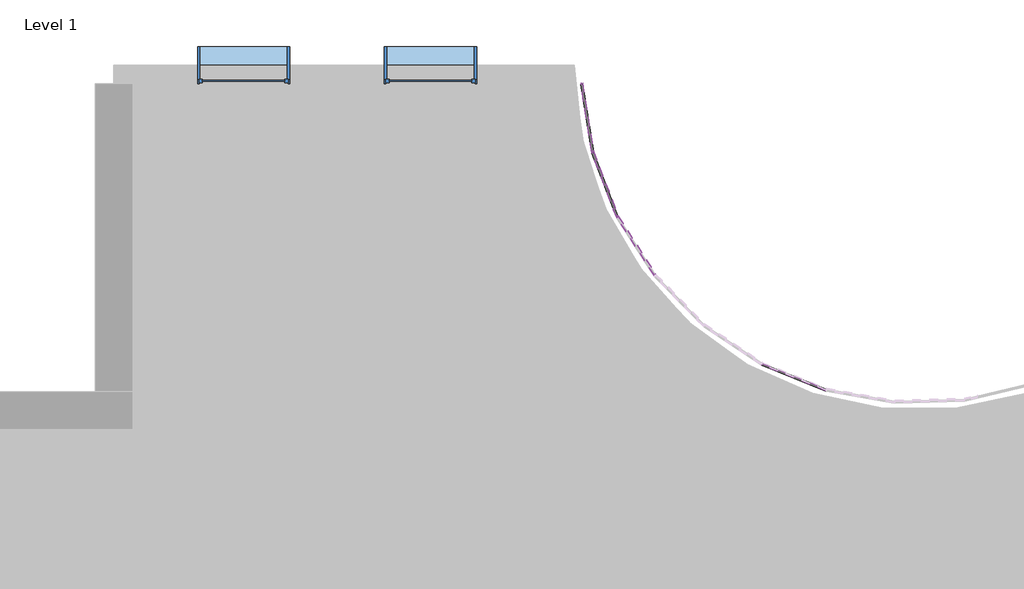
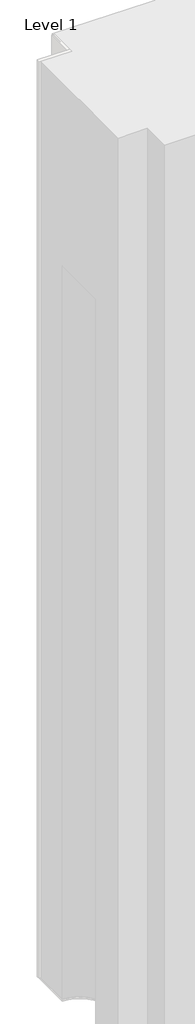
# One storey, part 16 of 20: 121 plates, 2 windows.
"""IFC4 building model written with IfcOpenShell, lengths in millimetres."""

from ifc_helpers import new_model, si_unit, origin, place, context, project, spatial, transform, mapped, element, save
from components import system_panel_glazed_d77d1ebf, window_d0035ecf, window_d434eb62

model = new_model("IFC4")

# Units and contexts
model_context = context("Model", 3, world=origin())
ifc_project = project(units=[si_unit("LENGTHUNIT", "METRE", prefix="MILLI")], contexts=[model_context])

# Site, building, storey
site = spatial("IfcSite", under=ifc_project)
building = spatial("IfcBuilding", under=site)
storey = spatial("IfcBuildingStorey", under=building, Name="Level 1", Elevation=0.0)

# Plates
placement = place(None, origin())
system_panel_glazed_shape = system_panel_glazed_d77d1ebf(model_context)
element("IfcPlate", 1, ObjectType="System Panel : Glazed", at=placement, inside=storey, context=model_context, shape_type="MappedRepresentation", body=[
    mapped(system_panel_glazed_shape, transform((-850.898382, 8349.4333414, 0.0), x_axis=(0.15870983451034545, -0.9873252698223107, 0.0), y_axis=(0.9873252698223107, 0.15870983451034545, 0.0), z_axis=(0.0, 0.0, 1.0))),
])
element("IfcPlate", 2, ObjectType="System Panel : Glazed", at=placement, inside=storey, context=model_context, shape_type="MappedRepresentation", body=[
    mapped(system_panel_glazed_shape, transform((-850.898382, 8349.4333414, 3048.0), x_axis=(0.15870983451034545, -0.9873252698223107, 0.0), y_axis=(0.9873252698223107, 0.15870983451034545, 0.0), z_axis=(0.0, 0.0, 1.0))),
])
element("IfcPlate", 3, ObjectType="System Panel : Glazed", at=placement, inside=storey, context=model_context, shape_type="MappedRepresentation", body=[
    mapped(system_panel_glazed_shape, transform((-850.898382, 8349.4333414, 6096.0), x_axis=(0.15870983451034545, -0.9873252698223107, 0.0), y_axis=(0.9873252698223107, 0.15870983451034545, 0.0), z_axis=(0.0, 0.0, 1.0))),
])
element("IfcPlate", 4, ObjectType="System Panel : Glazed", at=placement, inside=storey, context=model_context, shape_type="MappedRepresentation", body=[
    mapped(system_panel_glazed_shape, transform((-850.898382, 8349.4333414, 9144.0), x_axis=(0.15870983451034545, -0.9873252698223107, 0.0), y_axis=(0.9873252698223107, 0.15870983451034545, 0.0), z_axis=(0.0, 0.0, 1.0))),
])
element("IfcPlate", 5, ObjectType="System Panel : Glazed", at=placement, inside=storey, context=model_context, shape_type="MappedRepresentation", body=[
    mapped(system_panel_glazed_shape, transform((-850.898382, 8349.4333414, 12192.0), x_axis=(0.15870983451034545, -0.9873252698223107, 0.0), y_axis=(0.9873252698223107, 0.15870983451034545, 0.0), z_axis=(0.0, 0.0, 1.0))),
])
element("IfcPlate", 6, ObjectType="System Panel : Glazed", at=placement, inside=storey, context=model_context, shape_type="MappedRepresentation", body=[
    mapped(system_panel_glazed_shape, transform((-850.898382, 8349.4333414, 15240.0), x_axis=(0.15870983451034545, -0.9873252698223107, 0.0), y_axis=(0.9873252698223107, 0.15870983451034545, 0.0), z_axis=(0.0, 0.0, 1.0))),
])
element("IfcPlate", 7, ObjectType="System Panel : Glazed", at=placement, inside=storey, context=model_context, shape_type="MappedRepresentation", body=[
    mapped(system_panel_glazed_shape, transform((-850.898382, 8349.4333414, 18288.0), x_axis=(0.15870983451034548, -0.9873252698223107, 0.0), y_axis=(0.9873252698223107, 0.15870983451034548, 0.0), z_axis=(0.0, 0.0, 1.0))),
])
element("IfcPlate", 8, ObjectType="System Panel : Glazed", at=placement, inside=storey, context=model_context, shape_type="MappedRepresentation", body=[
    mapped(system_panel_glazed_shape, transform((-850.898382, 8349.4333414, 21336.0), x_axis=(0.15870983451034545, -0.9873252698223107, 0.0), y_axis=(0.9873252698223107, 0.15870983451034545, 0.0), z_axis=(0.0, 0.0, 1.0))),
])
element("IfcPlate", 9, ObjectType="System Panel : Glazed", at=placement, inside=storey, context=model_context, shape_type="MappedRepresentation", body=[
    mapped(system_panel_glazed_shape, transform((-850.898382, 8349.4333414, 24384.0), x_axis=(0.15870983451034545, -0.9873252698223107, 0.0), y_axis=(0.9873252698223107, 0.15870983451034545, 0.0), z_axis=(0.0, 0.0, 1.0))),
])
element("IfcPlate", 10, ObjectType="System Panel : Glazed", at=placement, inside=storey, context=model_context, shape_type="MappedRepresentation", body=[
    mapped(system_panel_glazed_shape, transform((-850.898382, 8349.4333414, 27432.0), x_axis=(0.15870983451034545, -0.9873252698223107, 0.0), y_axis=(0.9873252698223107, 0.15870983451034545, 0.0), z_axis=(0.0, 0.0, 1.0))),
])
element("IfcPlate", 11, ObjectType="System Panel : Glazed", at=placement, inside=storey, context=model_context, shape_type="MappedRepresentation", body=[
    mapped(system_panel_glazed_shape, transform((-850.898382, 8349.4333414, 30480.0), x_axis=(0.15870983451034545, -0.9873252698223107, 0.0), y_axis=(0.9873252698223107, 0.15870983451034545, 0.0), z_axis=(0.0, 0.0, 1.0))),
])
element("IfcPlate", 12, ObjectType="System Panel : Glazed", at=placement, inside=storey, context=model_context, shape_type="MappedRepresentation", body=[
    mapped(system_panel_glazed_shape, transform((-850.898382, 8349.4333414, 33528.0), x_axis=(0.15870983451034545, -0.9873252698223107, 0.0), y_axis=(0.9873252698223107, 0.15870983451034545, 0.0), z_axis=(0.0, 0.0, 1.0))),
])
element("IfcPlate", 13, ObjectType="System Panel : Glazed", at=placement, inside=storey, context=model_context, shape_type="MappedRepresentation", body=[
    mapped(system_panel_glazed_shape, transform((-850.898382, 8349.4333414, 36576.0), x_axis=(0.15870983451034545, -0.9873252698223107, 0.0), y_axis=(0.9873252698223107, 0.15870983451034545, 0.0), z_axis=(0.0, 0.0, 1.0))),
])
element("IfcPlate", 14, ObjectType="System Panel : Glazed", at=placement, inside=storey, context=model_context, shape_type="MappedRepresentation", body=[
    mapped(system_panel_glazed_shape, transform((-850.898382, 8349.4333414, 39624.0), x_axis=(0.15870983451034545, -0.9873252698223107, 0.0), y_axis=(0.9873252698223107, 0.15870983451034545, 0.0), z_axis=(0.0, 0.0, 1.0))),
])
element("IfcPlate", 15, ObjectType="System Panel : Glazed", at=placement, inside=storey, context=model_context, shape_type="MappedRepresentation", body=[
    mapped(system_panel_glazed_shape, transform((-850.898382, 8349.4333414, 42672.0), x_axis=(0.15870983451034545, -0.9873252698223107, 0.0), y_axis=(0.9873252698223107, 0.15870983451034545, 0.0), z_axis=(0.0, 0.0, 1.0))),
])
element("IfcPlate", 16, ObjectType="System Panel : Glazed", at=placement, inside=storey, context=model_context, shape_type="MappedRepresentation", body=[
    mapped(system_panel_glazed_shape, transform((-850.898382, 8349.4333414, 45720.0), x_axis=(0.15870983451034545, -0.9873252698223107, 0.0), y_axis=(0.9873252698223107, 0.15870983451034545, 0.0), z_axis=(0.0, 0.0, 1.0))),
])
element("IfcPlate", 17, ObjectType="System Panel : Glazed", at=placement, inside=storey, context=model_context, shape_type="MappedRepresentation", body=[
    mapped(system_panel_glazed_shape, transform((-850.898382, 8349.4333414, 48768.0), x_axis=(0.15870983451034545, -0.9873252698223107, 0.0), y_axis=(0.9873252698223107, 0.15870983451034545, 0.0), z_axis=(0.0, 0.0, 1.0))),
])
element("IfcPlate", 18, ObjectType="System Panel : Glazed", at=placement, inside=storey, context=model_context, shape_type="MappedRepresentation", body=[
    mapped(system_panel_glazed_shape, transform((-850.898382, 8349.4333414, 51816.0), x_axis=(0.15870983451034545, -0.9873252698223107, 0.0), y_axis=(0.9873252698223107, 0.15870983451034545, 0.0), z_axis=(0.0, 0.0, 1.0))),
])
element("IfcPlate", 19, ObjectType="System Panel : Glazed", at=placement, inside=storey, context=model_context, shape_type="MappedRepresentation", body=[
    mapped(system_panel_glazed_shape, transform((-850.898382, 8349.4333414, 54864.0), x_axis=(0.15870983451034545, -0.9873252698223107, 0.0), y_axis=(0.9873252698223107, 0.15870983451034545, 0.0), z_axis=(0.0, 0.0, 1.0))),
])
element("IfcPlate", 20, ObjectType="System Panel : Glazed", at=placement, inside=storey, context=model_context, shape_type="MappedRepresentation", body=[
    mapped(system_panel_glazed_shape, transform((-850.898382, 8349.4333414, 57912.0), x_axis=(0.15870983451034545, -0.9873252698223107, 0.0), y_axis=(0.9873252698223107, 0.15870983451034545, 0.0), z_axis=(0.0, 0.0, 1.0))),
])
element("IfcPlate", 21, ObjectType="System Panel : Glazed", at=placement, inside=storey, context=model_context, shape_type="MappedRepresentation", body=[
    mapped(system_panel_glazed_shape, transform((-850.898382, 8349.4333414, 60960.0), x_axis=(0.15870983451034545, -0.9873252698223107, 0.0), y_axis=(0.9873252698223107, 0.15870983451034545, 0.0), z_axis=(0.0, 0.0, 1.0))),
])
element("IfcPlate", 22, ObjectType="System Panel : Glazed", at=placement, inside=storey, context=model_context, shape_type="MappedRepresentation", body=[
    mapped(system_panel_glazed_shape, transform((-850.898382, 8349.4333414, 64008.0), x_axis=(0.15870983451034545, -0.9873252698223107, 0.0), y_axis=(0.9873252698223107, 0.15870983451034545, 0.0), z_axis=(0.0, 0.0, 1.0))),
])
element("IfcPlate", 23, ObjectType="System Panel : Glazed", at=placement, inside=storey, context=model_context, shape_type="MappedRepresentation", body=[
    mapped(system_panel_glazed_shape, transform((-850.898382, 8349.4333414, 67056.0), x_axis=(0.15870983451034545, -0.9873252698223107, 0.0), y_axis=(0.9873252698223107, 0.15870983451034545, 0.0), z_axis=(0.0, 0.0, 1.0))),
])
element("IfcPlate", 24, ObjectType="System Panel : Glazed", at=placement, inside=storey, context=model_context, shape_type="MappedRepresentation", body=[
    mapped(system_panel_glazed_shape, transform((-850.898382, 8349.4333414, 70104.0), x_axis=(0.15870983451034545, -0.9873252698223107, 0.0), y_axis=(0.9873252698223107, 0.15870983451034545, 0.0), z_axis=(0.0, 0.0, 1.0))),
])
element("IfcPlate", 25, ObjectType="System Panel : Glazed", at=placement, inside=storey, context=model_context, shape_type="MappedRepresentation", body=[
    mapped(system_panel_glazed_shape, transform((-850.898382, 8349.4333414, 73152.0), x_axis=(0.15870983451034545, -0.9873252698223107, 0.0), y_axis=(0.9873252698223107, 0.15870983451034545, 0.0), z_axis=(0.0, 0.0, 1.0))),
])
element("IfcPlate", 26, ObjectType="System Panel : Glazed", at=placement, inside=storey, context=model_context, shape_type="MappedRepresentation", body=[
    mapped(system_panel_glazed_shape, transform((-850.898382, 8349.4333414, 76200.0), x_axis=(0.15870983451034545, -0.9873252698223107, 0.0), y_axis=(0.9873252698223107, 0.15870983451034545, 0.0), z_axis=(0.0, 0.0, 1.0))),
])
element("IfcPlate", 27, ObjectType="System Panel : Glazed", at=placement, inside=storey, context=model_context, shape_type="MappedRepresentation", body=[
    mapped(system_panel_glazed_shape, transform((-850.898382, 8349.4333414, 79248.0), x_axis=(0.15870983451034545, -0.9873252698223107, 0.0), y_axis=(0.9873252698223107, 0.15870983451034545, 0.0), z_axis=(0.0, 0.0, 1.0))),
])
element("IfcPlate", 28, ObjectType="System Panel : Glazed", at=placement, inside=storey, context=model_context, shape_type="MappedRepresentation", body=[
    mapped(system_panel_glazed_shape, transform((-850.898382, 8349.4333414, 82296.0), x_axis=(0.15870983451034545, -0.9873252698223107, 0.0), y_axis=(0.9873252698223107, 0.15870983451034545, 0.0), z_axis=(0.0, 0.0, 1.0))),
])
element("IfcPlate", 29, ObjectType="System Panel : Glazed", at=placement, inside=storey, context=model_context, shape_type="MappedRepresentation", body=[
    mapped(system_panel_glazed_shape, transform((-850.898382, 8349.4333414, 85344.0), x_axis=(0.15870983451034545, -0.9873252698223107, 0.0), y_axis=(0.9873252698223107, 0.15870983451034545, 0.0), z_axis=(0.0, 0.0, 1.0))),
])
element("IfcPlate", 30, ObjectType="System Panel : Glazed", at=placement, inside=storey, context=model_context, shape_type="MappedRepresentation", body=[
    mapped(system_panel_glazed_shape, transform((-850.898382, 8349.4333414, 88392.0), x_axis=(0.15870983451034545, -0.9873252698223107, 0.0), y_axis=(0.9873252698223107, 0.15870983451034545, 0.0), z_axis=(0.0, 0.0, 1.0))),
])
element("IfcPlate", 31, ObjectType="System Panel : Glazed", at=placement, inside=storey, context=model_context, shape_type="MappedRepresentation", body=[
    mapped(system_panel_glazed_shape, transform((-850.898382, 8349.4333414, 91440.0), x_axis=(0.15870983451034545, -0.9873252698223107, 0.0), y_axis=(0.9873252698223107, 0.15870983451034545, 0.0), z_axis=(0.0, 0.0, 1.0))),
])
element("IfcPlate", 32, ObjectType="System Panel : Glazed", at=placement, inside=storey, context=model_context, shape_type="MappedRepresentation", body=[
    mapped(system_panel_glazed_shape, transform((-850.898382, 8349.4333414, 94488.0), x_axis=(0.15870983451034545, -0.9873252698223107, 0.0), y_axis=(0.9873252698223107, 0.15870983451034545, 0.0), z_axis=(0.0, 0.0, 1.0))),
])
element("IfcPlate", 33, ObjectType="System Panel : Glazed", at=placement, inside=storey, context=model_context, shape_type="MappedRepresentation", body=[
    mapped(system_panel_glazed_shape, transform((-850.898382, 8349.4333414, 97536.0), x_axis=(0.15870983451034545, -0.9873252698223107, 0.0), y_axis=(0.9873252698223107, 0.15870983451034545, 0.0), z_axis=(0.0, 0.0, 1.0))),
])
element("IfcPlate", 34, ObjectType="System Panel : Glazed", at=placement, inside=storey, context=model_context, shape_type="MappedRepresentation", body=[
    mapped(system_panel_glazed_shape, transform((-850.898382, 8349.4333414, 100584.0), x_axis=(0.15870983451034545, -0.9873252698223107, 0.0), y_axis=(0.9873252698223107, 0.15870983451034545, 0.0), z_axis=(0.0, 0.0, 1.0))),
])
element("IfcPlate", 35, ObjectType="System Panel : Glazed", at=placement, inside=storey, context=model_context, shape_type="MappedRepresentation", body=[
    mapped(system_panel_glazed_shape, transform((1869.2399479, 4945.5684765, 0.0), x_axis=(0.9280115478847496, -0.37255142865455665, 0.0), y_axis=(0.37255142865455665, 0.9280115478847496, 0.0), z_axis=(0.0, 0.0, 1.0))),
])
element("IfcPlate", 36, ObjectType="System Panel : Glazed", at=placement, inside=storey, context=model_context, shape_type="MappedRepresentation", body=[
    mapped(system_panel_glazed_shape, transform((1869.2399479, 4945.5684765, 3048.0), x_axis=(0.9280115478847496, -0.37255142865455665, 0.0), y_axis=(0.37255142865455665, 0.9280115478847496, 0.0), z_axis=(0.0, 0.0, 1.0))),
])
element("IfcPlate", 37, ObjectType="System Panel : Glazed", at=placement, inside=storey, context=model_context, shape_type="MappedRepresentation", body=[
    mapped(system_panel_glazed_shape, transform((1869.2399479, 4945.5684765, 6096.0), x_axis=(0.9280115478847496, -0.37255142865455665, 0.0), y_axis=(0.37255142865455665, 0.9280115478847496, 0.0), z_axis=(0.0, 0.0, 1.0))),
])
element("IfcPlate", 38, ObjectType="System Panel : Glazed", at=placement, inside=storey, context=model_context, shape_type="MappedRepresentation", body=[
    mapped(system_panel_glazed_shape, transform((1869.2399479, 4945.5684765, 9144.0), x_axis=(0.9280115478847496, -0.37255142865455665, 0.0), y_axis=(0.37255142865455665, 0.9280115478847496, 0.0), z_axis=(0.0, 0.0, 1.0))),
])
element("IfcPlate", 39, ObjectType="System Panel : Glazed", at=placement, inside=storey, context=model_context, shape_type="MappedRepresentation", body=[
    mapped(system_panel_glazed_shape, transform((1869.2399479, 4945.5684765, 12192.0), x_axis=(0.9280115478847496, -0.37255142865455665, 0.0), y_axis=(0.37255142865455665, 0.9280115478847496, 0.0), z_axis=(0.0, 0.0, 1.0))),
])
element("IfcPlate", 40, ObjectType="System Panel : Glazed", at=placement, inside=storey, context=model_context, shape_type="MappedRepresentation", body=[
    mapped(system_panel_glazed_shape, transform((1869.2399479, 4945.5684765, 15240.0), x_axis=(0.9280115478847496, -0.37255142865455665, 0.0), y_axis=(0.37255142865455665, 0.9280115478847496, 0.0), z_axis=(0.0, 0.0, 1.0))),
])
element("IfcPlate", 41, ObjectType="System Panel : Glazed", at=placement, inside=storey, context=model_context, shape_type="MappedRepresentation", body=[
    mapped(system_panel_glazed_shape, transform((1869.2399479, 4945.5684765, 18288.0), x_axis=(0.9280115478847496, -0.37255142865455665, 0.0), y_axis=(0.37255142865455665, 0.9280115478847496, 0.0), z_axis=(0.0, 0.0, 1.0))),
])
element("IfcPlate", 42, ObjectType="System Panel : Glazed", at=placement, inside=storey, context=model_context, shape_type="MappedRepresentation", body=[
    mapped(system_panel_glazed_shape, transform((1869.2399479, 4945.5684765, 21336.0), x_axis=(0.9280115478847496, -0.37255142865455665, 0.0), y_axis=(0.37255142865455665, 0.9280115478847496, 0.0), z_axis=(0.0, 0.0, 1.0))),
])
element("IfcPlate", 43, ObjectType="System Panel : Glazed", at=placement, inside=storey, context=model_context, shape_type="MappedRepresentation", body=[
    mapped(system_panel_glazed_shape, transform((1869.2399479, 4945.5684765, 24384.0), x_axis=(0.9280115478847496, -0.37255142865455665, 0.0), y_axis=(0.37255142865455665, 0.9280115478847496, 0.0), z_axis=(0.0, 0.0, 1.0))),
])
element("IfcPlate", 44, ObjectType="System Panel : Glazed", at=placement, inside=storey, context=model_context, shape_type="MappedRepresentation", body=[
    mapped(system_panel_glazed_shape, transform((1869.2399479, 4945.5684765, 27432.0), x_axis=(0.9280115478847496, -0.37255142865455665, 0.0), y_axis=(0.37255142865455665, 0.9280115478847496, 0.0), z_axis=(0.0, 0.0, 1.0))),
])
element("IfcPlate", 45, ObjectType="System Panel : Glazed", at=placement, inside=storey, context=model_context, shape_type="MappedRepresentation", body=[
    mapped(system_panel_glazed_shape, transform((1869.2399479, 4945.5684765, 30480.0), x_axis=(0.9280115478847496, -0.37255142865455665, 0.0), y_axis=(0.37255142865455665, 0.9280115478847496, 0.0), z_axis=(0.0, 0.0, 1.0))),
])
element("IfcPlate", 46, ObjectType="System Panel : Glazed", at=placement, inside=storey, context=model_context, shape_type="MappedRepresentation", body=[
    mapped(system_panel_glazed_shape, transform((1869.2399479, 4945.5684765, 33528.0), x_axis=(0.9280115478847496, -0.37255142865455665, 0.0), y_axis=(0.37255142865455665, 0.9280115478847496, 0.0), z_axis=(0.0, 0.0, 1.0))),
])
element("IfcPlate", 47, ObjectType="System Panel : Glazed", at=placement, inside=storey, context=model_context, shape_type="MappedRepresentation", body=[
    mapped(system_panel_glazed_shape, transform((1869.2399479, 4945.5684765, 36576.0), x_axis=(0.9280115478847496, -0.37255142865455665, 0.0), y_axis=(0.37255142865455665, 0.9280115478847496, 0.0), z_axis=(0.0, 0.0, 1.0))),
])
element("IfcPlate", 48, ObjectType="System Panel : Glazed", at=placement, inside=storey, context=model_context, shape_type="MappedRepresentation", body=[
    mapped(system_panel_glazed_shape, transform((1869.2399479, 4945.5684765, 39624.0), x_axis=(0.9280115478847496, -0.37255142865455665, 0.0), y_axis=(0.37255142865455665, 0.9280115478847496, 0.0), z_axis=(0.0, 0.0, 1.0))),
])
element("IfcPlate", 49, ObjectType="System Panel : Glazed", at=placement, inside=storey, context=model_context, shape_type="MappedRepresentation", body=[
    mapped(system_panel_glazed_shape, transform((1869.2399479, 4945.5684765, 42672.0), x_axis=(0.9280115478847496, -0.37255142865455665, 0.0), y_axis=(0.37255142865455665, 0.9280115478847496, 0.0), z_axis=(0.0, 0.0, 1.0))),
])
element("IfcPlate", 50, ObjectType="System Panel : Glazed", at=placement, inside=storey, context=model_context, shape_type="MappedRepresentation", body=[
    mapped(system_panel_glazed_shape, transform((1869.2399479, 4945.5684765, 45720.0), x_axis=(0.9280115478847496, -0.37255142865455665, 0.0), y_axis=(0.37255142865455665, 0.9280115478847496, 0.0), z_axis=(0.0, 0.0, 1.0))),
])
element("IfcPlate", 51, ObjectType="System Panel : Glazed", at=placement, inside=storey, context=model_context, shape_type="MappedRepresentation", body=[
    mapped(system_panel_glazed_shape, transform((1869.2399479, 4945.5684765, 48768.0), x_axis=(0.9280115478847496, -0.37255142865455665, 0.0), y_axis=(0.37255142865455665, 0.9280115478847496, 0.0), z_axis=(0.0, 0.0, 1.0))),
])
element("IfcPlate", 52, ObjectType="System Panel : Glazed", at=placement, inside=storey, context=model_context, shape_type="MappedRepresentation", body=[
    mapped(system_panel_glazed_shape, transform((1869.2399479, 4945.5684765, 51816.0), x_axis=(0.9280115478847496, -0.37255142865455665, 0.0), y_axis=(0.37255142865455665, 0.9280115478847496, 0.0), z_axis=(0.0, 0.0, 1.0))),
])
element("IfcPlate", 53, ObjectType="System Panel : Glazed", at=placement, inside=storey, context=model_context, shape_type="MappedRepresentation", body=[
    mapped(system_panel_glazed_shape, transform((1869.2399479, 4945.5684765, 54864.0), x_axis=(0.9280115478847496, -0.37255142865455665, 0.0), y_axis=(0.37255142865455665, 0.9280115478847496, 0.0), z_axis=(0.0, 0.0, 1.0))),
])
element("IfcPlate", 54, ObjectType="System Panel : Glazed", at=placement, inside=storey, context=model_context, shape_type="MappedRepresentation", body=[
    mapped(system_panel_glazed_shape, transform((1869.2399479, 4945.5684765, 57912.0), x_axis=(0.9280115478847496, -0.37255142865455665, 0.0), y_axis=(0.37255142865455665, 0.9280115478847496, 0.0), z_axis=(0.0, 0.0, 1.0))),
])
element("IfcPlate", 55, ObjectType="System Panel : Glazed", at=placement, inside=storey, context=model_context, shape_type="MappedRepresentation", body=[
    mapped(system_panel_glazed_shape, transform((1869.2399479, 4945.5684765, 60960.0), x_axis=(0.9280115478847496, -0.37255142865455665, 0.0), y_axis=(0.37255142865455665, 0.9280115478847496, 0.0), z_axis=(0.0, 0.0, 1.0))),
])
element("IfcPlate", 56, ObjectType="System Panel : Glazed", at=placement, inside=storey, context=model_context, shape_type="MappedRepresentation", body=[
    mapped(system_panel_glazed_shape, transform((1869.2399479, 4945.5684765, 64008.0), x_axis=(0.9280115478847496, -0.37255142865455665, 0.0), y_axis=(0.37255142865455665, 0.9280115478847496, 0.0), z_axis=(0.0, 0.0, 1.0))),
])
element("IfcPlate", 57, ObjectType="System Panel : Glazed", at=placement, inside=storey, context=model_context, shape_type="MappedRepresentation", body=[
    mapped(system_panel_glazed_shape, transform((1869.2399479, 4945.5684765, 67056.0), x_axis=(0.9280115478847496, -0.37255142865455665, 0.0), y_axis=(0.37255142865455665, 0.9280115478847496, 0.0), z_axis=(0.0, 0.0, 1.0))),
])
element("IfcPlate", 58, ObjectType="System Panel : Glazed", at=placement, inside=storey, context=model_context, shape_type="MappedRepresentation", body=[
    mapped(system_panel_glazed_shape, transform((-204.4736202, 6659.3588929, 67056.0), x_axis=(0.5406806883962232, -0.841227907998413, 0.0), y_axis=(0.841227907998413, 0.5406806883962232, 0.0), z_axis=(0.0, 0.0, 1.0))),
])
element("IfcPlate", 59, ObjectType="System Panel : Glazed", at=placement, inside=storey, context=model_context, shape_type="MappedRepresentation", body=[
    mapped(system_panel_glazed_shape, transform((-204.4736202, 6659.3588929, 70104.0), x_axis=(0.5406806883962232, -0.841227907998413, 0.0), y_axis=(0.841227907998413, 0.5406806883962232, 0.0), z_axis=(0.0, 0.0, 1.0))),
])
element("IfcPlate", 60, ObjectType="System Panel : Glazed", at=placement, inside=storey, context=model_context, shape_type="MappedRepresentation", body=[
    mapped(system_panel_glazed_shape, transform((-204.4736202, 6659.3588929, 73152.0), x_axis=(0.5406806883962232, -0.841227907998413, 0.0), y_axis=(0.841227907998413, 0.5406806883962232, 0.0), z_axis=(0.0, 0.0, 1.0))),
])
element("IfcPlate", 61, ObjectType="System Panel : Glazed", at=placement, inside=storey, context=model_context, shape_type="MappedRepresentation", body=[
    mapped(system_panel_glazed_shape, transform((-204.4736202, 6659.3588929, 76200.0), x_axis=(0.5406806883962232, -0.841227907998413, 0.0), y_axis=(0.841227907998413, 0.5406806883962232, 0.0), z_axis=(0.0, 0.0, 1.0))),
])
element("IfcPlate", 62, ObjectType="System Panel : Glazed", at=placement, inside=storey, context=model_context, shape_type="MappedRepresentation", body=[
    mapped(system_panel_glazed_shape, transform((-204.4736202, 6659.3588929, 79248.0), x_axis=(0.5406806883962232, -0.841227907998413, 0.0), y_axis=(0.841227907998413, 0.5406806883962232, 0.0), z_axis=(0.0, 0.0, 1.0))),
])
element("IfcPlate", 63, ObjectType="System Panel : Glazed", at=placement, inside=storey, context=model_context, shape_type="MappedRepresentation", body=[
    mapped(system_panel_glazed_shape, transform((-204.4736202, 6659.3588929, 82296.0), x_axis=(0.5406806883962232, -0.841227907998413, 0.0), y_axis=(0.841227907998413, 0.5406806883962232, 0.0), z_axis=(0.0, 0.0, 1.0))),
])
element("IfcPlate", 64, ObjectType="System Panel : Glazed", at=placement, inside=storey, context=model_context, shape_type="MappedRepresentation", body=[
    mapped(system_panel_glazed_shape, transform((-204.4736202, 6659.3588929, 85344.0), x_axis=(0.5406806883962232, -0.841227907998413, 0.0), y_axis=(0.841227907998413, 0.5406806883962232, 0.0), z_axis=(0.0, 0.0, 1.0))),
])
element("IfcPlate", 65, ObjectType="System Panel : Glazed", at=placement, inside=storey, context=model_context, shape_type="MappedRepresentation", body=[
    mapped(system_panel_glazed_shape, transform((-204.4736202, 6659.3588929, 88392.0), x_axis=(0.5406806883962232, -0.841227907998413, 0.0), y_axis=(0.841227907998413, 0.5406806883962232, 0.0), z_axis=(0.0, 0.0, 1.0))),
])
element("IfcPlate", 66, ObjectType="System Panel : Glazed", at=placement, inside=storey, context=model_context, shape_type="MappedRepresentation", body=[
    mapped(system_panel_glazed_shape, transform((-204.4736202, 6659.3588929, 91440.0), x_axis=(0.5406806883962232, -0.841227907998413, 0.0), y_axis=(0.841227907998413, 0.5406806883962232, 0.0), z_axis=(0.0, 0.0, 1.0))),
])
element("IfcPlate", 67, ObjectType="System Panel : Glazed", at=placement, inside=storey, context=model_context, shape_type="MappedRepresentation", body=[
    mapped(system_panel_glazed_shape, transform((-204.4736202, 6659.3588929, 94488.0), x_axis=(0.5406806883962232, -0.841227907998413, 0.0), y_axis=(0.841227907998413, 0.5406806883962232, 0.0), z_axis=(0.0, 0.0, 1.0))),
])
element("IfcPlate", 68, ObjectType="System Panel : Glazed", at=placement, inside=storey, context=model_context, shape_type="MappedRepresentation", body=[
    mapped(system_panel_glazed_shape, transform((-204.4736202, 6659.3588929, 97536.0), x_axis=(0.5406806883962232, -0.841227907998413, 0.0), y_axis=(0.841227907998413, 0.5406806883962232, 0.0), z_axis=(0.0, 0.0, 1.0))),
])
element("IfcPlate", 69, ObjectType="System Panel : Glazed", at=placement, inside=storey, context=model_context, shape_type="MappedRepresentation", body=[
    mapped(system_panel_glazed_shape, transform((-204.4736202, 6659.3588929, 100584.0), x_axis=(0.5406806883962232, -0.841227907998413, 0.0), y_axis=(0.841227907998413, 0.5406806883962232, 0.0), z_axis=(0.0, 0.0, 1.0))),
])
element("IfcPlate", 70, ObjectType="System Panel : Glazed", at=placement, inside=storey, context=model_context, shape_type="MappedRepresentation", body=[
    mapped(system_panel_glazed_shape, transform((-615.0045383, 7470.9982602, 0.0), x_axis=(0.3572434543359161, -0.9340113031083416, 0.0), y_axis=(0.9340113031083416, 0.3572434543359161, 0.0), z_axis=(0.0, 0.0, 1.0))),
])
element("IfcPlate", 71, ObjectType="System Panel : Glazed", at=placement, inside=storey, context=model_context, shape_type="MappedRepresentation", body=[
    mapped(system_panel_glazed_shape, transform((-615.0045383, 7470.9982602, 3048.0), x_axis=(0.3572434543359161, -0.9340113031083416, 0.0), y_axis=(0.9340113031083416, 0.3572434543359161, 0.0), z_axis=(0.0, 0.0, 1.0))),
])
element("IfcPlate", 72, ObjectType="System Panel : Glazed", at=placement, inside=storey, context=model_context, shape_type="MappedRepresentation", body=[
    mapped(system_panel_glazed_shape, transform((-615.0045383, 7470.9982602, 6096.0), x_axis=(0.3572434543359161, -0.9340113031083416, 0.0), y_axis=(0.9340113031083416, 0.3572434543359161, 0.0), z_axis=(0.0, 0.0, 1.0))),
])
element("IfcPlate", 73, ObjectType="System Panel : Glazed", at=placement, inside=storey, context=model_context, shape_type="MappedRepresentation", body=[
    mapped(system_panel_glazed_shape, transform((-615.0045383, 7470.9982602, 9144.0), x_axis=(0.3572434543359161, -0.9340113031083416, 0.0), y_axis=(0.9340113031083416, 0.3572434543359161, 0.0), z_axis=(0.0, 0.0, 1.0))),
])
element("IfcPlate", 74, ObjectType="System Panel : Glazed", at=placement, inside=storey, context=model_context, shape_type="MappedRepresentation", body=[
    mapped(system_panel_glazed_shape, transform((-615.0045383, 7470.9982602, 12192.0), x_axis=(0.3572434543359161, -0.9340113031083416, 0.0), y_axis=(0.9340113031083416, 0.3572434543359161, 0.0), z_axis=(0.0, 0.0, 1.0))),
])
element("IfcPlate", 75, ObjectType="System Panel : Glazed", at=placement, inside=storey, context=model_context, shape_type="MappedRepresentation", body=[
    mapped(system_panel_glazed_shape, transform((-615.0045383, 7470.9982602, 15240.0), x_axis=(0.3572434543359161, -0.9340113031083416, 0.0), y_axis=(0.9340113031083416, 0.3572434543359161, 0.0), z_axis=(0.0, 0.0, 1.0))),
])
element("IfcPlate", 76, ObjectType="System Panel : Glazed", at=placement, inside=storey, context=model_context, shape_type="MappedRepresentation", body=[
    mapped(system_panel_glazed_shape, transform((-615.0045383, 7470.9982602, 18288.0), x_axis=(0.3572434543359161, -0.9340113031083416, 0.0), y_axis=(0.9340113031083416, 0.3572434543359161, 0.0), z_axis=(0.0, 0.0, 1.0))),
])
element("IfcPlate", 77, ObjectType="System Panel : Glazed", at=placement, inside=storey, context=model_context, shape_type="MappedRepresentation", body=[
    mapped(system_panel_glazed_shape, transform((-615.0045383, 7470.9982602, 21336.0), x_axis=(0.3572434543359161, -0.9340113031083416, 0.0), y_axis=(0.9340113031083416, 0.3572434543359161, 0.0), z_axis=(0.0, 0.0, 1.0))),
])
element("IfcPlate", 78, ObjectType="System Panel : Glazed", at=placement, inside=storey, context=model_context, shape_type="MappedRepresentation", body=[
    mapped(system_panel_glazed_shape, transform((-615.0045383, 7470.9982602, 24384.0), x_axis=(0.3572434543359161, -0.9340113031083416, 0.0), y_axis=(0.9340113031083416, 0.3572434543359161, 0.0), z_axis=(0.0, 0.0, 1.0))),
])
element("IfcPlate", 79, ObjectType="System Panel : Glazed", at=placement, inside=storey, context=model_context, shape_type="MappedRepresentation", body=[
    mapped(system_panel_glazed_shape, transform((-615.0045383, 7470.9982602, 27432.0), x_axis=(0.3572434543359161, -0.9340113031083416, 0.0), y_axis=(0.9340113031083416, 0.3572434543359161, 0.0), z_axis=(0.0, 0.0, 1.0))),
])
element("IfcPlate", 80, ObjectType="System Panel : Glazed", at=placement, inside=storey, context=model_context, shape_type="MappedRepresentation", body=[
    mapped(system_panel_glazed_shape, transform((-615.0045383, 7470.9982602, 30480.0), x_axis=(0.3572434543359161, -0.9340113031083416, 0.0), y_axis=(0.9340113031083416, 0.3572434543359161, 0.0), z_axis=(0.0, 0.0, 1.0))),
])
element("IfcPlate", 81, ObjectType="System Panel : Glazed", at=placement, inside=storey, context=model_context, shape_type="MappedRepresentation", body=[
    mapped(system_panel_glazed_shape, transform((-615.0045383, 7470.9982602, 33528.0), x_axis=(0.3572434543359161, -0.9340113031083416, 0.0), y_axis=(0.9340113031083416, 0.3572434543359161, 0.0), z_axis=(0.0, 0.0, 1.0))),
])
element("IfcPlate", 82, ObjectType="System Panel : Glazed", at=placement, inside=storey, context=model_context, shape_type="MappedRepresentation", body=[
    mapped(system_panel_glazed_shape, transform((-615.0045383, 7470.9982602, 36576.0), x_axis=(0.3572434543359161, -0.9340113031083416, 0.0), y_axis=(0.9340113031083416, 0.3572434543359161, 0.0), z_axis=(0.0, 0.0, 1.0))),
])
element("IfcPlate", 83, ObjectType="System Panel : Glazed", at=placement, inside=storey, context=model_context, shape_type="MappedRepresentation", body=[
    mapped(system_panel_glazed_shape, transform((-615.0045383, 7470.9982602, 39624.0), x_axis=(0.3572434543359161, -0.9340113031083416, 0.0), y_axis=(0.9340113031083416, 0.3572434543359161, 0.0), z_axis=(0.0, 0.0, 1.0))),
])
element("IfcPlate", 84, ObjectType="System Panel : Glazed", at=placement, inside=storey, context=model_context, shape_type="MappedRepresentation", body=[
    mapped(system_panel_glazed_shape, transform((-615.0045383, 7470.9982602, 42672.0), x_axis=(0.3572434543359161, -0.9340113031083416, 0.0), y_axis=(0.9340113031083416, 0.3572434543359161, 0.0), z_axis=(0.0, 0.0, 1.0))),
])
element("IfcPlate", 85, ObjectType="System Panel : Glazed", at=placement, inside=storey, context=model_context, shape_type="MappedRepresentation", body=[
    mapped(system_panel_glazed_shape, transform((-615.0045383, 7470.9982602, 45720.0), x_axis=(0.3572434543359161, -0.9340113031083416, 0.0), y_axis=(0.9340113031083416, 0.3572434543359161, 0.0), z_axis=(0.0, 0.0, 1.0))),
])
element("IfcPlate", 86, ObjectType="System Panel : Glazed", at=placement, inside=storey, context=model_context, shape_type="MappedRepresentation", body=[
    mapped(system_panel_glazed_shape, transform((-615.0045383, 7470.9982602, 48768.0), x_axis=(0.3572434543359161, -0.9340113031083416, 0.0), y_axis=(0.9340113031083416, 0.3572434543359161, 0.0), z_axis=(0.0, 0.0, 1.0))),
])
element("IfcPlate", 87, ObjectType="System Panel : Glazed", at=placement, inside=storey, context=model_context, shape_type="MappedRepresentation", body=[
    mapped(system_panel_glazed_shape, transform((-615.0045383, 7470.9982602, 51816.0), x_axis=(0.3572434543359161, -0.9340113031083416, 0.0), y_axis=(0.9340113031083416, 0.3572434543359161, 0.0), z_axis=(0.0, 0.0, 1.0))),
])
element("IfcPlate", 88, ObjectType="System Panel : Glazed", at=placement, inside=storey, context=model_context, shape_type="MappedRepresentation", body=[
    mapped(system_panel_glazed_shape, transform((-615.0045383, 7470.9982602, 54864.0), x_axis=(0.3572434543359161, -0.9340113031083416, 0.0), y_axis=(0.9340113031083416, 0.3572434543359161, 0.0), z_axis=(0.0, 0.0, 1.0))),
])
element("IfcPlate", 89, ObjectType="System Panel : Glazed", at=placement, inside=storey, context=model_context, shape_type="MappedRepresentation", body=[
    mapped(system_panel_glazed_shape, transform((-615.0045383, 7470.9982602, 57912.0), x_axis=(0.3572434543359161, -0.9340113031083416, 0.0), y_axis=(0.9340113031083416, 0.3572434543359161, 0.0), z_axis=(0.0, 0.0, 1.0))),
])
element("IfcPlate", 90, ObjectType="System Panel : Glazed", at=placement, inside=storey, context=model_context, shape_type="MappedRepresentation", body=[
    mapped(system_panel_glazed_shape, transform((-615.0045383, 7470.9982602, 60960.0), x_axis=(0.3572434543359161, -0.9340113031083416, 0.0), y_axis=(0.9340113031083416, 0.3572434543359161, 0.0), z_axis=(0.0, 0.0, 1.0))),
])
element("IfcPlate", 91, ObjectType="System Panel : Glazed", at=placement, inside=storey, context=model_context, shape_type="MappedRepresentation", body=[
    mapped(system_panel_glazed_shape, transform((-615.0045383, 7470.9982602, 64008.0), x_axis=(0.3572434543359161, -0.9340113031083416, 0.0), y_axis=(0.9340113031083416, 0.3572434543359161, 0.0), z_axis=(0.0, 0.0, 1.0))),
])
element("IfcPlate", 92, ObjectType="System Panel : Glazed", at=placement, inside=storey, context=model_context, shape_type="MappedRepresentation", body=[
    mapped(system_panel_glazed_shape, transform((-615.0045383, 7470.9982602, 67056.0), x_axis=(0.3572434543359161, -0.9340113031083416, 0.0), y_axis=(0.9340113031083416, 0.3572434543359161, 0.0), z_axis=(0.0, 0.0, 1.0))),
])
element("IfcPlate", 93, ObjectType="System Panel : Glazed", at=placement, inside=storey, context=model_context, shape_type="MappedRepresentation", body=[
    mapped(system_panel_glazed_shape, transform((-615.0045383, 7470.9982602, 70104.0), x_axis=(0.3572434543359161, -0.9340113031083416, 0.0), y_axis=(0.9340113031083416, 0.3572434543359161, 0.0), z_axis=(0.0, 0.0, 1.0))),
])
element("IfcPlate", 94, ObjectType="System Panel : Glazed", at=placement, inside=storey, context=model_context, shape_type="MappedRepresentation", body=[
    mapped(system_panel_glazed_shape, transform((-615.0045383, 7470.9982602, 73152.0), x_axis=(0.3572434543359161, -0.9340113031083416, 0.0), y_axis=(0.9340113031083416, 0.3572434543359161, 0.0), z_axis=(0.0, 0.0, 1.0))),
])
element("IfcPlate", 95, ObjectType="System Panel : Glazed", at=placement, inside=storey, context=model_context, shape_type="MappedRepresentation", body=[
    mapped(system_panel_glazed_shape, transform((-615.0045383, 7470.9982602, 76200.0), x_axis=(0.3572434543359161, -0.9340113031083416, 0.0), y_axis=(0.9340113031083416, 0.3572434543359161, 0.0), z_axis=(0.0, 0.0, 1.0))),
])
element("IfcPlate", 96, ObjectType="System Panel : Glazed", at=placement, inside=storey, context=model_context, shape_type="MappedRepresentation", body=[
    mapped(system_panel_glazed_shape, transform((-615.0045383, 7470.9982602, 79248.0), x_axis=(0.3572434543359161, -0.9340113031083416, 0.0), y_axis=(0.9340113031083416, 0.3572434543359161, 0.0), z_axis=(0.0, 0.0, 1.0))),
])
element("IfcPlate", 97, ObjectType="System Panel : Glazed", at=placement, inside=storey, context=model_context, shape_type="MappedRepresentation", body=[
    mapped(system_panel_glazed_shape, transform((-615.0045383, 7470.9982602, 82296.0), x_axis=(0.3572434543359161, -0.9340113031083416, 0.0), y_axis=(0.9340113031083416, 0.3572434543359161, 0.0), z_axis=(0.0, 0.0, 1.0))),
])
element("IfcPlate", 98, ObjectType="System Panel : Glazed", at=placement, inside=storey, context=model_context, shape_type="MappedRepresentation", body=[
    mapped(system_panel_glazed_shape, transform((-615.0045383, 7470.9982602, 85344.0), x_axis=(0.3572434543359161, -0.9340113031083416, 0.0), y_axis=(0.9340113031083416, 0.3572434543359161, 0.0), z_axis=(0.0, 0.0, 1.0))),
])
element("IfcPlate", 99, ObjectType="System Panel : Glazed", at=placement, inside=storey, context=model_context, shape_type="MappedRepresentation", body=[
    mapped(system_panel_glazed_shape, transform((-615.0045383, 7470.9982602, 88392.0), x_axis=(0.3572434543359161, -0.9340113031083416, 0.0), y_axis=(0.9340113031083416, 0.3572434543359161, 0.0), z_axis=(0.0, 0.0, 1.0))),
])
element("IfcPlate", 100, ObjectType="System Panel : Glazed", at=placement, inside=storey, context=model_context, shape_type="MappedRepresentation", body=[
    mapped(system_panel_glazed_shape, transform((-615.0045383, 7470.9982602, 91440.0), x_axis=(0.3572434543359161, -0.9340113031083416, 0.0), y_axis=(0.9340113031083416, 0.3572434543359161, 0.0), z_axis=(0.0, 0.0, 1.0))),
])
element("IfcPlate", 101, ObjectType="System Panel : Glazed", at=placement, inside=storey, context=model_context, shape_type="MappedRepresentation", body=[
    mapped(system_panel_glazed_shape, transform((-615.0045383, 7470.9982602, 94488.0), x_axis=(0.3572434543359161, -0.9340113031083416, 0.0), y_axis=(0.9340113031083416, 0.3572434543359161, 0.0), z_axis=(0.0, 0.0, 1.0))),
])
element("IfcPlate", 102, ObjectType="System Panel : Glazed", at=placement, inside=storey, context=model_context, shape_type="MappedRepresentation", body=[
    mapped(system_panel_glazed_shape, transform((-615.0045383, 7470.9982602, 97536.0), x_axis=(0.3572434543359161, -0.9340113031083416, 0.0), y_axis=(0.9340113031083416, 0.3572434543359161, 0.0), z_axis=(0.0, 0.0, 1.0))),
])
element("IfcPlate", 103, ObjectType="System Panel : Glazed", at=placement, inside=storey, context=model_context, shape_type="MappedRepresentation", body=[
    mapped(system_panel_glazed_shape, transform((-615.0045383, 7470.9982602, 100584.0), x_axis=(0.3572434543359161, -0.9340113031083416, 0.0), y_axis=(0.9340113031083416, 0.3572434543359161, 0.0), z_axis=(0.0, 0.0, 1.0))),
])
element("IfcPlate", 104, ObjectType="System Panel : Glazed", at=placement, inside=storey, context=model_context, shape_type="MappedRepresentation", body=[
    mapped(system_panel_glazed_shape, transform((-850.898382, 8349.4333414, 103632.0), x_axis=(0.15870983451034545, -0.9873252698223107, 0.0), y_axis=(0.9873252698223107, 0.15870983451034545, 0.0), z_axis=(0.0, 0.0, 1.0))),
])
element("IfcPlate", 105, ObjectType="System Panel : Glazed", at=placement, inside=storey, context=model_context, shape_type="MappedRepresentation", body=[
    mapped(system_panel_glazed_shape, transform((-204.4736202, 6659.3588929, 103632.0), x_axis=(0.5406806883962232, -0.841227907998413, 0.0), y_axis=(0.841227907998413, 0.5406806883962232, 0.0), z_axis=(0.0, 0.0, 1.0))),
])
element("IfcPlate", 106, ObjectType="System Panel : Glazed", at=placement, inside=storey, context=model_context, shape_type="MappedRepresentation", body=[
    mapped(system_panel_glazed_shape, transform((-615.0045383, 7470.9982602, 103632.0), x_axis=(0.3572434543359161, -0.9340113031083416, 0.0), y_axis=(0.9340113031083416, 0.3572434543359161, 0.0), z_axis=(0.0, 0.0, 1.0))),
])
element("IfcPlate", 107, ObjectType="System Panel : Glazed", at=placement, inside=storey, context=model_context, shape_type="MappedRepresentation", body=[
    mapped(system_panel_glazed_shape, transform((-850.898382, 8349.4333414, 106680.0), x_axis=(0.15870983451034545, -0.9873252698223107, 0.0), y_axis=(0.9873252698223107, 0.15870983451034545, 0.0), z_axis=(0.0, 0.0, 1.0))),
])
element("IfcPlate", 108, ObjectType="System Panel : Glazed", at=placement, inside=storey, context=model_context, shape_type="MappedRepresentation", body=[
    mapped(system_panel_glazed_shape, transform((-204.4736202, 6659.3588929, 106680.0), x_axis=(0.5406806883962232, -0.841227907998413, 0.0), y_axis=(0.841227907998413, 0.5406806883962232, 0.0), z_axis=(0.0, 0.0, 1.0))),
])
element("IfcPlate", 109, ObjectType="System Panel : Glazed", at=placement, inside=storey, context=model_context, shape_type="MappedRepresentation", body=[
    mapped(system_panel_glazed_shape, transform((-615.0045383, 7470.9982602, 106680.0), x_axis=(0.3572434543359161, -0.9340113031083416, 0.0), y_axis=(0.9340113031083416, 0.3572434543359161, 0.0), z_axis=(0.0, 0.0, 1.0))),
])
element("IfcPlate", 110, ObjectType="System Panel : Glazed", at=placement, inside=storey, context=model_context, shape_type="MappedRepresentation", body=[
    mapped(system_panel_glazed_shape, transform((-850.898382, 8349.4333414, 109728.0), x_axis=(0.15870983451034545, -0.9873252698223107, 0.0), y_axis=(0.9873252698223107, 0.15870983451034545, 0.0), z_axis=(0.0, 0.0, 1.0))),
])
element("IfcPlate", 111, ObjectType="System Panel : Glazed", at=placement, inside=storey, context=model_context, shape_type="MappedRepresentation", body=[
    mapped(system_panel_glazed_shape, transform((-204.4736202, 6659.3588929, 109728.0), x_axis=(0.5406806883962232, -0.841227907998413, 0.0), y_axis=(0.841227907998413, 0.5406806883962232, 0.0), z_axis=(0.0, 0.0, 1.0))),
])
element("IfcPlate", 112, ObjectType="System Panel : Glazed", at=placement, inside=storey, context=model_context, shape_type="MappedRepresentation", body=[
    mapped(system_panel_glazed_shape, transform((-615.0045383, 7470.9982602, 109728.0), x_axis=(0.3572434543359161, -0.9340113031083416, 0.0), y_axis=(0.9340113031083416, 0.3572434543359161, 0.0), z_axis=(0.0, 0.0, 1.0))),
])
element("IfcPlate", 113, ObjectType="System Panel : Glazed", at=placement, inside=storey, context=model_context, shape_type="MappedRepresentation", body=[
    mapped(system_panel_glazed_shape, transform((-850.898382, 8349.4333414, 112776.0), x_axis=(0.15870983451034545, -0.9873252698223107, 0.0), y_axis=(0.9873252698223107, 0.15870983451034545, 0.0), z_axis=(0.0, 0.0, 1.0))),
])
element("IfcPlate", 114, ObjectType="System Panel : Glazed", at=placement, inside=storey, context=model_context, shape_type="MappedRepresentation", body=[
    mapped(system_panel_glazed_shape, transform((-204.4736202, 6659.3588929, 112776.0), x_axis=(0.5406806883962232, -0.841227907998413, 0.0), y_axis=(0.841227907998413, 0.5406806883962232, 0.0), z_axis=(0.0, 0.0, 1.0))),
])
element("IfcPlate", 115, ObjectType="System Panel : Glazed", at=placement, inside=storey, context=model_context, shape_type="MappedRepresentation", body=[
    mapped(system_panel_glazed_shape, transform((-615.0045383, 7470.9982602, 112776.0), x_axis=(0.3572434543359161, -0.9340113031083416, 0.0), y_axis=(0.9340113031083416, 0.3572434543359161, 0.0), z_axis=(0.0, 0.0, 1.0))),
])
element("IfcPlate", 116, ObjectType="System Panel : Glazed", at=placement, inside=storey, context=model_context, shape_type="MappedRepresentation", body=[
    mapped(system_panel_glazed_shape, transform((-850.898382, 8349.4333414, 115824.0), x_axis=(0.15870983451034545, -0.9873252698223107, 0.0), y_axis=(0.9873252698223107, 0.15870983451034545, 0.0), z_axis=(0.0, 0.0, 1.0))),
])
element("IfcPlate", 117, ObjectType="System Panel : Glazed", at=placement, inside=storey, context=model_context, shape_type="MappedRepresentation", body=[
    mapped(system_panel_glazed_shape, transform((-204.4736202, 6659.3588929, 115824.0), x_axis=(0.5406806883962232, -0.841227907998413, 0.0), y_axis=(0.841227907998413, 0.5406806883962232, 0.0), z_axis=(0.0, 0.0, 1.0))),
])
element("IfcPlate", 118, ObjectType="System Panel : Glazed", at=placement, inside=storey, context=model_context, shape_type="MappedRepresentation", body=[
    mapped(system_panel_glazed_shape, transform((-615.0045383, 7470.9982602, 115824.0), x_axis=(0.3572434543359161, -0.9340113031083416, 0.0), y_axis=(0.9340113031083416, 0.3572434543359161, 0.0), z_axis=(0.0, 0.0, 1.0))),
])
element("IfcPlate", 119, ObjectType="System Panel : Glazed", at=placement, inside=storey, context=model_context, shape_type="MappedRepresentation", body=[
    mapped(system_panel_glazed_shape, transform((-850.898382, 8349.4333414, 118872.0), x_axis=(0.15870983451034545, -0.9873252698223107, 0.0), y_axis=(0.9873252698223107, 0.15870983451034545, 0.0), z_axis=(0.0, 0.0, 1.0))),
])
element("IfcPlate", 120, ObjectType="System Panel : Glazed", at=placement, inside=storey, context=model_context, shape_type="MappedRepresentation", body=[
    mapped(system_panel_glazed_shape, transform((-204.4736202, 6659.3588929, 118872.0), x_axis=(0.5406806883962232, -0.841227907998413, 0.0), y_axis=(0.841227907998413, 0.5406806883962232, 0.0), z_axis=(0.0, 0.0, 1.0))),
])
element("IfcPlate", 121, ObjectType="System Panel : Glazed", at=placement, inside=storey, context=model_context, shape_type="MappedRepresentation", body=[
    mapped(system_panel_glazed_shape, transform((-615.0045383, 7470.9982602, 118872.0), x_axis=(0.3572434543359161, -0.9340113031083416, 0.0), y_axis=(0.9340113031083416, 0.3572434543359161, 0.0), z_axis=(0.0, 0.0, 1.0))),
])

# Windows
window_shape = window_d0035ecf(model_context)
element("IfcWindow", 122, ObjectType="Fixed : 48\" x 48\"", at=placement, inside=storey, context=model_context, shape_type="MappedRepresentation", body=[
    mapped(window_shape, transform((-5469.1993281, 9048.4884547, 0.0), x_axis=(-1.0, 0.0, 0.0), y_axis=(0.0, -1.0, 0.0), z_axis=(0.0, 0.0, 1.0))),
])
window_2_shape = window_d434eb62(model_context)
element("IfcWindow", 123, ObjectType="Fixed : 48\" x 48\"", at=placement, inside=storey, context=model_context, shape_type="MappedRepresentation", body=[
    mapped(window_2_shape, transform((-2918.0879456, 9048.4884547, 0.0), x_axis=(1.0, 0.0, 0.0), y_axis=(0.0, 1.0, 0.0), z_axis=(0.0, 0.0, 1.0))),
])

save(model, "model.ifc")
